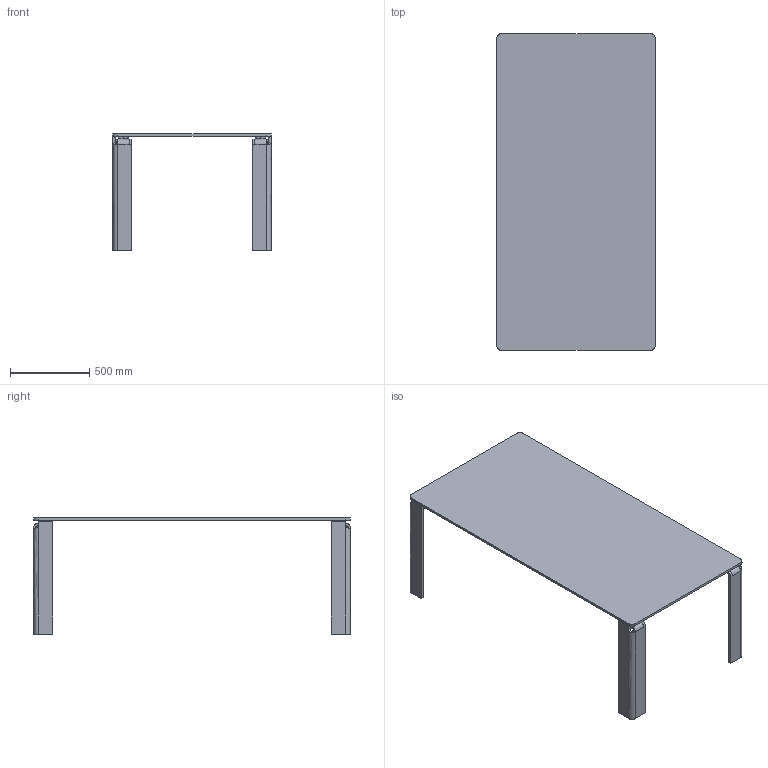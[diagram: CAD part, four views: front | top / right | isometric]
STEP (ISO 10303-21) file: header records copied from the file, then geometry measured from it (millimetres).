
FILE_DESCRIPTION(/* description */ (''),/* implementation_level */ '2;1');
FILE_NAME(/* name */ '4012 - Newton 200x100 Vetro',/* time_stamp */ '2012-06-18T11:35:56+02:00',/* author */ (''),/* organization */ (''),/* preprocessor_version */ 'ST-DEVELOPER v10',/* originating_system */ '',/* authorisation */ '');
FILE_SCHEMA (('CONFIG_CONTROL_DESIGN'));
Length unit declared in the file: millimetre
Products named in the file (1): 1
Bounding box: 1000 x 2000 x 734 mm (x, y, z)
Volume: 39932166.1 mm3; surface area: 5601099.5 mm2
Topology: 17 solids, 17 shells, 230 faces, 532 edges, 328 vertices
Faces by surface type: bspline 128, plane 102
Entity records: 8608 total; most frequent: CARTESIAN_POINT 5128, ORIENTED_EDGE 1048, EDGE_CURVE 524, B_SPLINE_CURVE_WITH_KNOTS 372, VERTEX_POINT 328, EDGE_LOOP 254, ADVANCED_FACE 230, FACE_OUTER_BOUND 230
